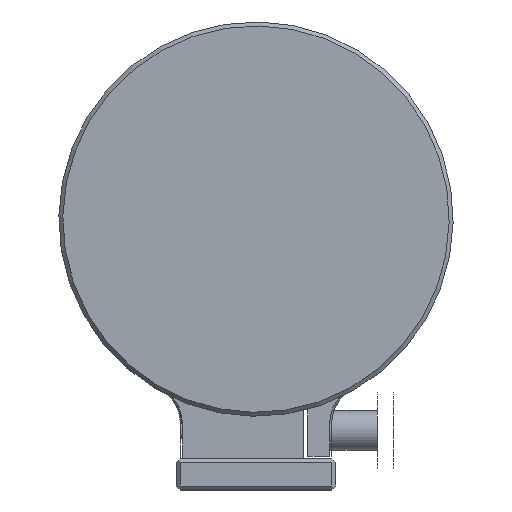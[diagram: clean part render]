
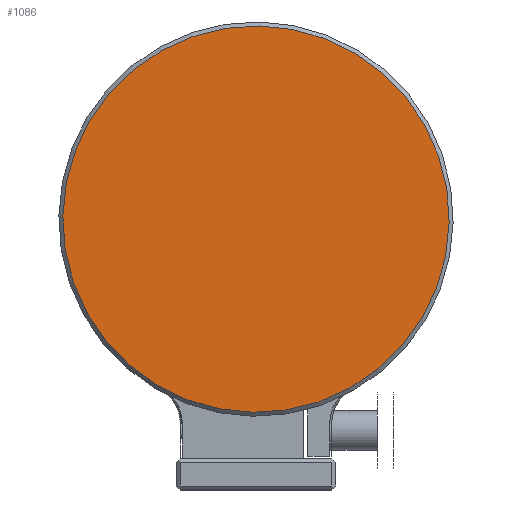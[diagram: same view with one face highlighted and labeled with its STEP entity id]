
A CAD part, left-side view. The second image highlights one B-rep face of the part: STEP entity #1086.
In plain terms, the highlighted planar face has unit normal (-1, 0, 0).
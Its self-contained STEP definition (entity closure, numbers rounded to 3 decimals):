
#1046=CARTESIAN_POINT('',(-60.106,-20.865,-48.493));
#1047=VERTEX_POINT('',#1046);
#1048=CARTESIAN_POINT('',(-60.106,-21.681,0.0));
#1049=DIRECTION('',(1.,0.,0.));
#1050=DIRECTION('',(0.,0.017,-1.));
#1051=AXIS2_PLACEMENT_3D('',#1048,#1049,#1050);
#1052=CIRCLE('',#1051,48.5);
#1053=EDGE_CURVE('',#1047,#1047,#1052,.T.);
#1078=CARTESIAN_POINT('',(-60.106,-20.878,-47.723));
#1079=DIRECTION('',(-1.0,0.0,0.0));
#1080=DIRECTION('',(0.0,1.,0.017));
#1081=AXIS2_PLACEMENT_3D('',#1078,#1079,#1080);
#1082=PLANE('',#1081);
#1083=ORIENTED_EDGE('',*,*,#1053,.F.);
#1084=EDGE_LOOP('',(#1083));
#1085=FACE_OUTER_BOUND('',#1084,.T.);
#1086=ADVANCED_FACE('',(#1085),#1082,.T.);
